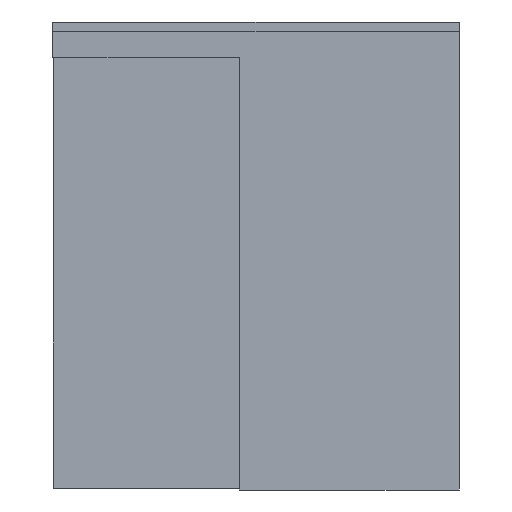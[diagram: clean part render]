
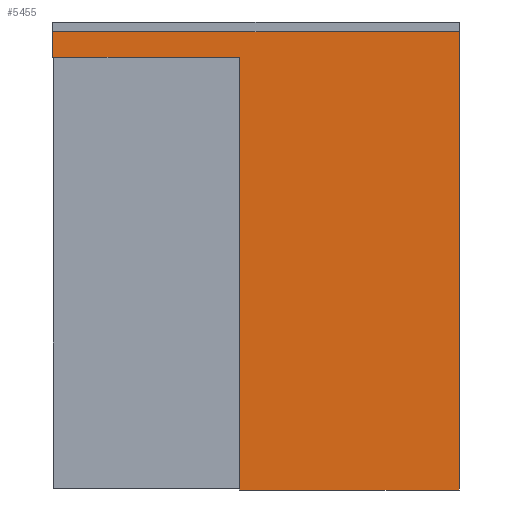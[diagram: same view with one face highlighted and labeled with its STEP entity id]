
A CAD part, front view. The second image highlights one B-rep face of the part: STEP entity #5455.
In plain terms, the highlighted planar face has unit normal (0, -1, 0).
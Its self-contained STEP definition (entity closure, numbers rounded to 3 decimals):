
#5455=ADVANCED_FACE('',(#10944),#10945,.F.);
#10944=FACE_OUTER_BOUND('',#16296,.T.);
#10945=PLANE('',#16297);
#16296=EDGE_LOOP('',(#32017,#32018,#32019,#32020,#32021,#32022));
#16297=AXIS2_PLACEMENT_3D('',#32023,#32024,#32025);
#32017=ORIENTED_EDGE('',*,*,#38226,.T.);
#32018=ORIENTED_EDGE('',*,*,#38216,.F.);
#32019=ORIENTED_EDGE('',*,*,#38220,.F.);
#32020=ORIENTED_EDGE('',*,*,#38224,.T.);
#32021=ORIENTED_EDGE('',*,*,#38227,.F.);
#32022=ORIENTED_EDGE('',*,*,#38228,.F.);
#32023=CARTESIAN_POINT('',(0.,-46.5,2333.0));
#32024=DIRECTION('',(0.0,1.0,-0.0));
#32025=DIRECTION('',(0.0,0.0,1.0));
#38216=EDGE_CURVE('',#47349,#47344,#47351,.T.);
#38220=EDGE_CURVE('',#47355,#47349,#47357,.T.);
#38224=EDGE_CURVE('',#47355,#47361,#47363,.T.);
#38226=EDGE_CURVE('',#47365,#47344,#47366,.T.);
#38227=EDGE_CURVE('',#47367,#47361,#47368,.T.);
#38228=EDGE_CURVE('',#47365,#47367,#47369,.T.);
#47344=VERTEX_POINT('',#60241);
#47349=VERTEX_POINT('',#60248);
#47351=LINE('',#60251,#60252);
#47355=VERTEX_POINT('',#60257);
#47357=LINE('',#60260,#60261);
#47361=VERTEX_POINT('',#60266);
#47363=LINE('',#60269,#60270);
#47365=VERTEX_POINT('',#60272);
#47366=LINE('',#60273,#60274);
#47367=VERTEX_POINT('',#60275);
#47368=LINE('',#60276,#60277);
#47369=LINE('',#60278,#60279);
#60241=CARTESIAN_POINT('',(965.,-46.5,2236.0));
#60248=CARTESIAN_POINT('',(965.,-46.5,0.0));
#60251=CARTESIAN_POINT('',(965.,-46.5,7.0));
#60252=VECTOR('',#67177,1.0);
#60257=CARTESIAN_POINT('',(2100.0,-46.5,0.0));
#60260=CARTESIAN_POINT('',(1327.5,-46.5,0.0));
#60261=VECTOR('',#67180,1.0);
#60266=CARTESIAN_POINT('',(2100.0,-46.5,2368.0));
#60269=CARTESIAN_POINT('',(2100.0,-46.5,7.0));
#60270=VECTOR('',#67183,1.0);
#60272=CARTESIAN_POINT('',(0.,-46.5,2236.0));
#60273=CARTESIAN_POINT('',(0.,-46.5,2236.0));
#60274=VECTOR('',#67184,1.0);
#60275=CARTESIAN_POINT('',(0.,-46.5,2368.0));
#60276=CARTESIAN_POINT('',(1270.0,-46.5,2368.0));
#60277=VECTOR('',#67185,1.0);
#60278=CARTESIAN_POINT('',(0.,-46.5,2301.0));
#60279=VECTOR('',#67186,1.0);
#67177=DIRECTION('',(0.0,0.0,1.0));
#67180=DIRECTION('',(-1.0,0.0,0.0));
#67183=DIRECTION('',(0.0,0.0,1.0));
#67184=DIRECTION('',(1.0,0.0,0.0));
#67185=DIRECTION('',(1.0,0.0,0.0));
#67186=DIRECTION('',(0.0,0.0,1.0));
